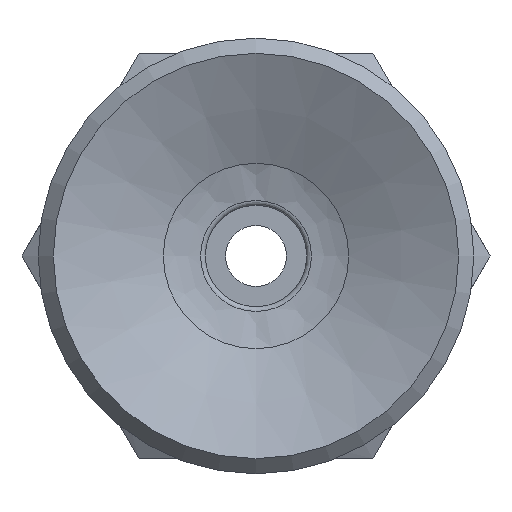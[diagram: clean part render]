
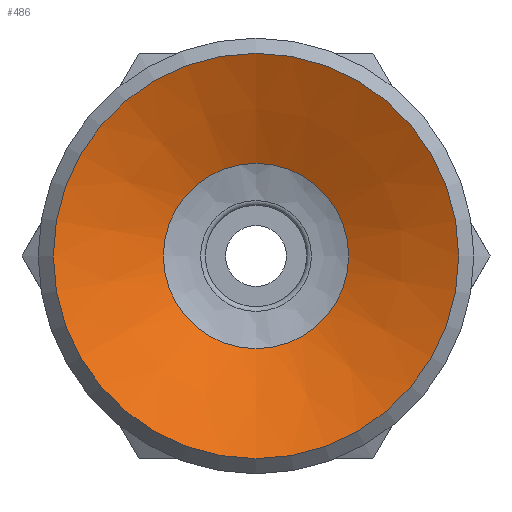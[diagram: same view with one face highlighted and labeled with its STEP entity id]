
A CAD part, front view. The second image highlights one B-rep face of the part: STEP entity #486.
In plain terms, the highlighted conical face has half-angle 65 degrees and reference radius 1.427 mm.
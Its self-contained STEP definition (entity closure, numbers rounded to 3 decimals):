
#486=ADVANCED_FACE('',(#711,#712),#713,.F.);
#711=FACE_BOUND('',#945,.T.);
#712=FACE_OUTER_BOUND('',#946,.T.);
#713=CONICAL_SURFACE('',#947,1.427,1.134);
#945=EDGE_LOOP('',(#1567));
#946=EDGE_LOOP('',(#1568));
#947=AXIS2_PLACEMENT_3D('',#1569,#1570,#1571);
#1567=ORIENTED_EDGE('',*,*,#1745,.T.);
#1568=ORIENTED_EDGE('',*,*,#1732,.T.);
#1569=CARTESIAN_POINT('',(0.0,7.096,0.));
#1570=DIRECTION('',(-0.0,-1.0,0.));
#1571=DIRECTION('',(0.0,0.,-1.0));
#1732=EDGE_CURVE('',#1984,#1984,#1985,.T.);
#1745=EDGE_CURVE('',#2010,#2010,#2011,.T.);
#1984=VERTEX_POINT('',#2552);
#1985=CIRCLE('',#2553,4.0);
#2010=VERTEX_POINT('',#2578);
#2011=CIRCLE('',#2579,1.828);
#2552=CARTESIAN_POINT('',(0.0,5.896,-4.0));
#2553=AXIS2_PLACEMENT_3D('',#2792,#2793,#2794);
#2578=CARTESIAN_POINT('',(0.0,6.909,-1.828));
#2579=AXIS2_PLACEMENT_3D('',#2831,#2832,#2833);
#2792=CARTESIAN_POINT('',(0.0,5.896,0.0));
#2793=DIRECTION('',(0.0,-1.0,0.));
#2794=DIRECTION('',(0.0,0.,-1.0));
#2831=CARTESIAN_POINT('',(0.0,6.909,0.0));
#2832=DIRECTION('',(0.0,1.0,0.));
#2833=DIRECTION('',(0.0,0.,-1.0));
